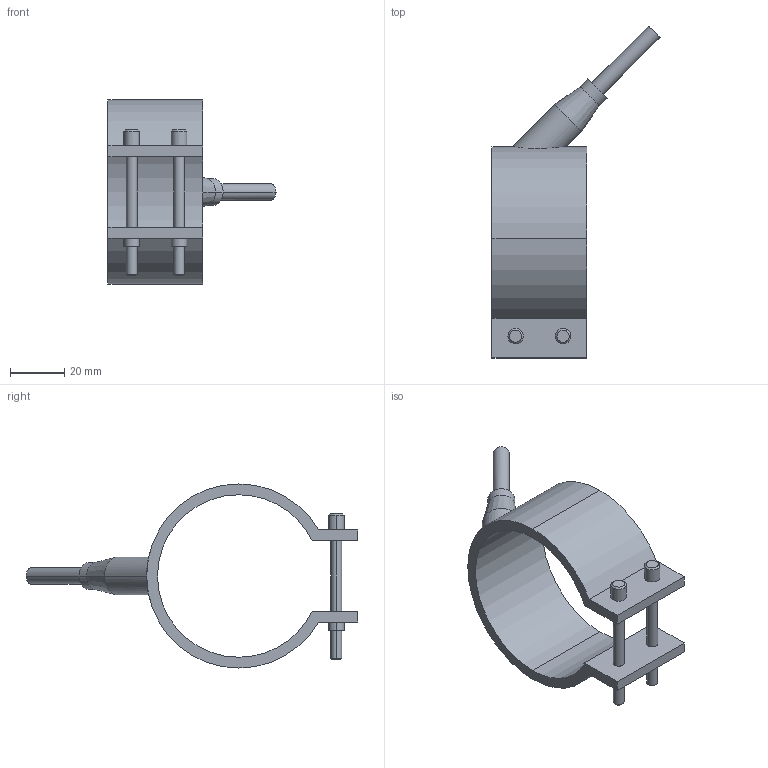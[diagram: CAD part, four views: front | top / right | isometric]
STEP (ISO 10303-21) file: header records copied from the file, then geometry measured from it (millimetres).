
FILE_DESCRIPTION(('CATIA V5 STEP Exchange'),'2;1');
FILE_NAME('C:\Users\Utente\Desktop\IO LAVORO\3D X SITO CF\X SITO\PLASTICA\RF1\29060035.stp','2021-03-27T09:54:25+00:00',('none'),('none'),'CATIA Version 5 Release 20 GA (IN-10)','CATIA V5 STEP AP203','none');
FILE_SCHEMA(('CONFIG_CONTROL_DESIGN'));
Length unit declared in the file: millimetre
Products named in the file (1): 29060035
Bounding box: 62.05 x 122.55 x 68 mm (x, y, z)
Volume: 34361.9 mm3; surface area: 18824.3 mm2
Topology: 1 solids, 1 shells, 54 faces, 126 edges, 82 vertices
Faces by surface type: cylinder 28, plane 16, cone 10
Entity records: 1750 total; most frequent: CARTESIAN_POINT 503, ORIENTED_EDGE 252, DIRECTION 213, EDGE_CURVE 126, AXIS2_PLACEMENT_3D 106, VERTEX_POINT 82, EDGE_LOOP 66, VECTOR 56
